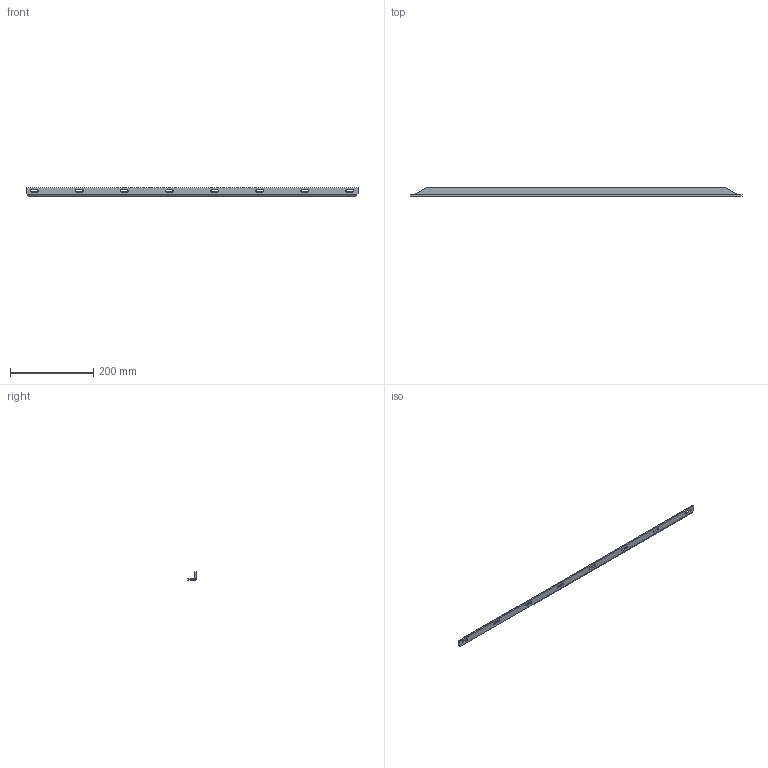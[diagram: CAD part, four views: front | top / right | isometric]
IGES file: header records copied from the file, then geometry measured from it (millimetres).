
Start section: SolidWorks IGES file using analytic representation for surfaces
Bounding box: 800 x 20 x 20 mm (x, y, z)
Surface area: 60736.6 mm2 (no closed solid volume)
Topology: 0 solids, 0 shells, 100 faces, 1162 edges, 1162 vertices
Faces by surface type: bspline 76, revolution 24
